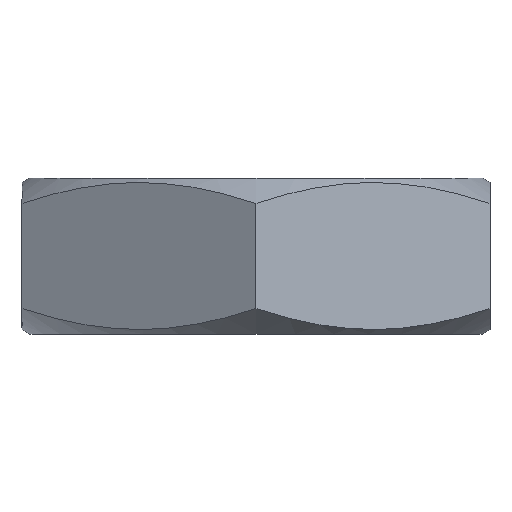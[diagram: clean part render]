
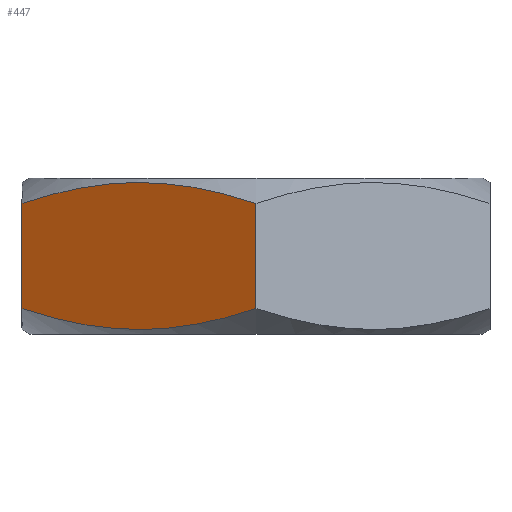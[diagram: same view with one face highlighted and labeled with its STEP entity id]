
A CAD part, left-side view. The second image highlights one B-rep face of the part: STEP entity #447.
In plain terms, the highlighted planar face has unit normal (-0.866, 0.5, 0).
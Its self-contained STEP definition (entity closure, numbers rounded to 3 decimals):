
#178=CARTESIAN_POINT('',(-3.464,6.,0.651));
#179=VERTEX_POINT('',#178);
#180=CARTESIAN_POINT('',(-6.928,0.,0.651));
#181=VERTEX_POINT('',#180);
#182=CARTESIAN_POINT('',(-3.464,6.,0.651));
#183=CARTESIAN_POINT('',(-5.196,3.,-0.349));
#184=CARTESIAN_POINT('',(-6.928,0.,0.651));
#192=(BOUNDED_CURVE()B_SPLINE_CURVE(2,(#182,#183,#184),.UNSPECIFIED.,.F.,.U.)B_SPLINE_CURVE_WITH_KNOTS((3,3),(0.037,0.752),.UNSPECIFIED.)CURVE()GEOMETRIC_REPRESENTATION_ITEM()RATIONAL_B_SPLINE_CURVE((1.017,1.175,1.017))REPRESENTATION_ITEM(''));
#193=EDGE_CURVE('',#179,#181,#192,.T.);
#349=CARTESIAN_POINT('',(-3.464,6.,3.349));
#350=VERTEX_POINT('',#349);
#351=CARTESIAN_POINT('',(-3.464,6.,0.651));
#352=DIRECTION('',(0.0,0.0,1.0));
#353=VECTOR('',#352,2.697);
#354=LINE('',#351,#353);
#355=EDGE_CURVE('',#179,#350,#354,.T.);
#382=CARTESIAN_POINT('',(-6.928,0.,3.349));
#383=VERTEX_POINT('',#382);
#384=CARTESIAN_POINT('',(-6.928,0.,3.349));
#385=CARTESIAN_POINT('',(-5.196,3.,4.349));
#386=CARTESIAN_POINT('',(-3.464,6.,3.349));
#394=(BOUNDED_CURVE()B_SPLINE_CURVE(2,(#384,#385,#386),.UNSPECIFIED.,.F.,.U.)B_SPLINE_CURVE_WITH_KNOTS((3,3),(0.037,0.752),.UNSPECIFIED.)CURVE()GEOMETRIC_REPRESENTATION_ITEM()RATIONAL_B_SPLINE_CURVE((1.017,1.175,1.017))REPRESENTATION_ITEM(''));
#395=EDGE_CURVE('',#383,#350,#394,.T.);
#431=CARTESIAN_POINT('',(-6.928,0.,0.0));
#432=DIRECTION('',(-0.866,0.5,0.0));
#433=DIRECTION('',(0.0,0.0,1.0));
#434=AXIS2_PLACEMENT_3D('',#431,#432,#433);
#435=PLANE('',#434);
#436=ORIENTED_EDGE('',*,*,#193,.T.);
#437=CARTESIAN_POINT('',(-6.928,0.,0.651));
#438=DIRECTION('',(0.0,0.0,1.0));
#439=VECTOR('',#438,2.697);
#440=LINE('',#437,#439);
#441=EDGE_CURVE('',#181,#383,#440,.T.);
#442=ORIENTED_EDGE('',*,*,#441,.T.);
#443=ORIENTED_EDGE('',*,*,#395,.T.);
#444=ORIENTED_EDGE('',*,*,#355,.F.);
#445=EDGE_LOOP('',(#436,#442,#443,#444));
#446=FACE_OUTER_BOUND('',#445,.T.);
#447=ADVANCED_FACE('',(#446),#435,.T.);
